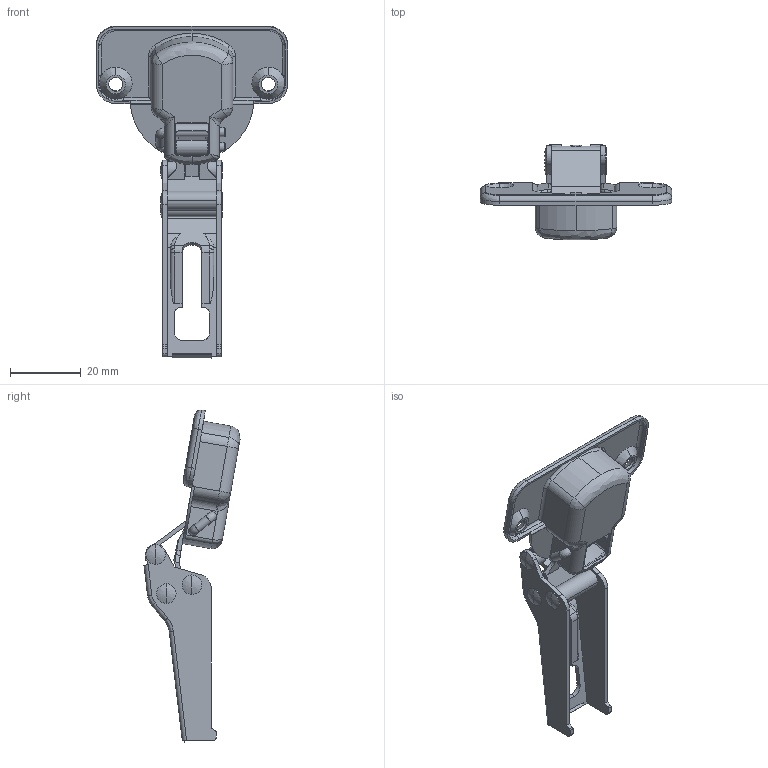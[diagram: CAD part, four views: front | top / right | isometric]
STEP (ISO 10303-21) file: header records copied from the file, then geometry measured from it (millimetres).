
FILE_DESCRIPTION (( 'STEP AP203' ), '1' );
FILE_NAME ('100_46_14_100.STEP', '2013-05-30T04:08:04', ( '' ), ( '' ), 'SwSTEP 2.0', 'SolidWorks 2012', '' );
FILE_SCHEMA (( 'CONFIG_CONTROL_DESIGN' ));
Length unit declared in the file: millimetre
Products named in the file (5): 100_46_14_100; 100SUS_socket; 100SUS_arm_B; 100SUS_arm_A; 100SUS_body_14
Assembly tree (4 placements, depth 2):
  100_46_14_100
    100SUS_body_14
    100SUS_arm_A
    100SUS_arm_B
    100SUS_socket
Bounding box: 54 x 27.07 x 93.63 mm (x, y, z)
Volume: 6034 mm3; surface area: 12590.5 mm2
Topology: 4 solids, 4 shells, 738 faces, 1946 edges, 1217 vertices
Faces by surface type: plane 317, cylinder 193, bspline 182, cone 34, torus 12
Entity records: 32415 total; most frequent: CARTESIAN_POINT 14889, ORIENTED_EDGE 3848, DIRECTION 3099, EDGE_CURVE 1924, VERTEX_POINT 1217, LINE 1103, VECTOR 1103, AXIS2_PLACEMENT_3D 998
